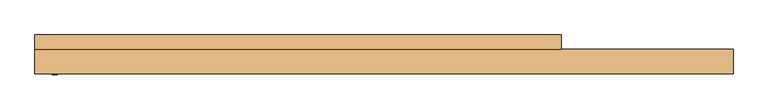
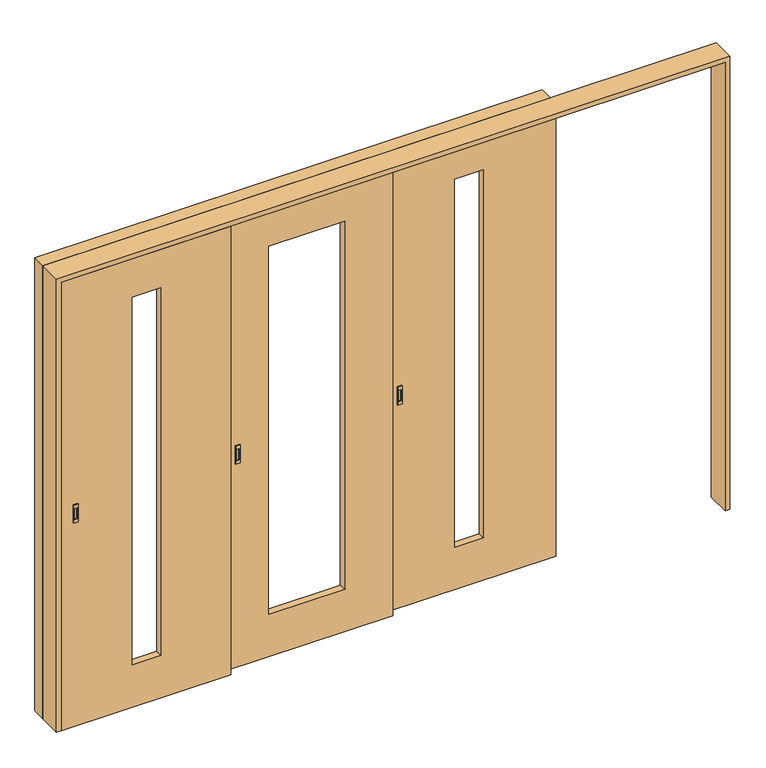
"""IFC4 building model written with IfcOpenShell, lengths in millimetres: door geometry, 木製_片引き3枚_フラッシュ2 : WD-9 w2100h2000."""

from ifc_helpers import new_model, si_unit, frame, origin, place, context, project, spatial, polyline, outline, extrude, faceted_brep, source, transform, mapped, element, save


def door_d265da5f(model_context):
    return source(origin(), model_context, "Body", "SolidModel", [
        faceted_brep([(414.464496, 22.5, 910.0), (394.464496, 22.5, 910.0), (394.464496, 22.5, 990.0), (414.464496, 22.5, 990.0), (399.464496, 22.5, 975.0), (399.464496, 22.5, 925.0), (409.464496, 22.5, 925.0), (409.464496, 22.5, 975.0), (414.464496, -17.5, 910.0), (414.464496, -17.5, 990.0), (394.464496, -17.5, 990.0), (394.464496, -17.5, 910.0), (399.464496, -17.5, 925.0), (399.464496, -17.5, 975.0), (409.464496, -17.5, 975.0), (409.464496, -17.5, 925.0), (399.464496, 17.5, 975.0), (409.464496, 17.5, 975.0), (409.464496, 17.5, 925.0), (399.464496, 17.5, 925.0), (409.464496, -12.5, 925.0), (409.464496, -12.5, 975.0), (399.464496, -12.5, 975.0), (399.464496, -12.5, 925.0)], [[[0, 1, 2, 3], [4, 5, 6, 7]], [[8, 9, 10, 11], [12, 13, 14, 15]], [[3, 9, 8, 0]], [[2, 10, 9, 3]], [[1, 11, 10, 2]], [[0, 8, 11, 1]], [[16, 17, 18, 19]], [[16, 4, 7, 17]], [[17, 7, 6, 18]], [[18, 6, 5, 19]], [[19, 5, 4, 16]], [[20, 21, 22, 23]], [[23, 12, 15, 20]], [[22, 13, 12, 23]], [[21, 14, 13, 22]], [[20, 15, 14, 21]]]),
        faceted_brep([(-285.535504, -7.5, 910.0), (-305.535504, -7.5, 910.0), (-305.535504, -7.5, 990.0), (-285.535504, -7.5, 990.0), (-300.535504, -7.5, 975.0), (-300.535504, -7.5, 925.0), (-290.535504, -7.5, 925.0), (-290.535504, -7.5, 975.0), (-285.535504, -47.5, 910.0), (-285.535504, -47.5, 990.0), (-305.535504, -47.5, 990.0), (-305.535504, -47.5, 910.0), (-300.535504, -47.5, 925.0), (-300.535504, -47.5, 975.0), (-290.535504, -47.5, 975.0), (-290.535504, -47.5, 925.0), (-300.535504, -12.5, 975.0), (-290.535504, -12.5, 975.0), (-290.535504, -12.5, 925.0), (-300.535504, -12.5, 925.0), (-290.535504, -42.5, 925.0), (-290.535504, -42.5, 975.0), (-300.535504, -42.5, 975.0), (-300.535504, -42.5, 925.0)], [[[0, 1, 2, 3], [4, 5, 6, 7]], [[8, 9, 10, 11], [12, 13, 14, 15]], [[3, 9, 8, 0]], [[2, 10, 9, 3]], [[1, 11, 10, 2]], [[0, 8, 11, 1]], [[16, 17, 18, 19]], [[16, 4, 7, 17]], [[17, 7, 6, 18]], [[18, 6, 5, 19]], [[19, 5, 4, 16]], [[20, 21, 22, 23]], [[23, 12, 15, 20]], [[22, 13, 12, 23]], [[21, 14, 13, 22]], [[20, 15, 14, 21]]]),
        faceted_brep([(-985.535504, -37.5, 910.0), (-1005.535504, -37.5, 910.0), (-1005.535504, -37.5, 990.0), (-985.535504, -37.5, 990.0), (-1000.535504, -37.5, 975.0), (-1000.535504, -37.5, 925.0), (-990.535504, -37.5, 925.0), (-990.535504, -37.5, 975.0), (-985.535504, -77.5, 910.0), (-985.535504, -77.5, 990.0), (-1005.535504, -77.5, 990.0), (-1005.535504, -77.5, 910.0), (-1000.535504, -77.5, 925.0), (-1000.535504, -77.5, 975.0), (-990.535504, -77.5, 975.0), (-990.535504, -77.5, 925.0), (-1000.535504, -42.5, 975.0), (-990.535504, -42.5, 975.0), (-990.535504, -42.5, 925.0), (-1000.535504, -42.5, 925.0), (-990.535504, -72.5, 925.0), (-990.535504, -72.5, 975.0), (-1000.535504, -72.5, 975.0), (-1000.535504, -72.5, 925.0)], [[[0, 1, 2, 3], [4, 5, 6, 7]], [[8, 9, 10, 11], [12, 13, 14, 15]], [[3, 9, 8, 0]], [[2, 10, 9, 3]], [[1, 11, 10, 2]], [[0, 8, 11, 1]], [[16, 17, 18, 19]], [[16, 4, 7, 17]], [[17, 7, 6, 18]], [[18, 6, 5, 19]], [[19, 5, 4, 16]], [[20, 21, 22, 23]], [[23, 12, 15, 20]], [[22, 13, 12, 23]], [[21, 14, 13, 22]], [[20, 15, 14, 21]]]),
        extrude(outline(polyline([(2000.0, 1064.464496), (2000.0, 329.464496), (0.0, 329.464496), (0.0, 1064.464496), (2000.0, 1064.464496)]), holes=[polyline([(1829.0931833, 759.1056252), (189.0931833, 759.1056252), (189.0931833, 639.1056252), (1829.0931833, 639.1056252), (1829.0931833, 759.1056252)])]), frame((0.0, -12.5, 0.0), z_axis=(0.0, 1.0, 0.0), x_axis=(0.0, 0.0, 1.0)), (0.0, 0.0, 1.0), 30.0),
        extrude(outline(polyline([(2000.0, 359.464496), (2000.0, -370.535504), (0.0, -370.535504), (0.0, 359.464496), (2000.0, 359.464496)]), holes=[polyline([(1829.0931833, 156.6056252), (189.0931833, 156.6056252), (189.0931833, -163.3943748), (1829.0931833, -163.3943748), (1829.0931833, 156.6056252)])]), frame((0.0, -42.5, 0.0), z_axis=(0.0, 1.0, 0.0), x_axis=(0.0, 0.0, 1.0)), (0.0, 0.0, 1.0), 30.0),
        extrude(outline(polyline([(2020.0, 1064.464496), (2020.0, -1075.535504), (0.0, -1075.535504), (0.0, -1055.535504), (2000.0, -1055.535504), (2000.0, 1044.464496), (0.0, 1044.464496), (0.0, 1064.464496), (2020.0, 1064.464496)])), frame((0.0, 27.5, 0.0), z_axis=(0.0, 1.0, 0.0), x_axis=(0.0, 0.0, 1.0)), (0.0, 0.0, 1.0), 57.5),
        extrude(outline(polyline([(2020.0, 1764.464496), (2020.0, -1075.535504), (0.0, -1075.535504), (0.0, -1055.535504), (2000.0, -1055.535504), (2000.0, 1744.464496), (0.0, 1744.464496), (0.0, 1764.464496), (2020.0, 1764.464496)])), frame((0.0, -72.5, 0.0), z_axis=(0.0, 1.0, 0.0), x_axis=(0.0, 0.0, 1.0)), (0.0, 0.0, 1.0), 100.0),
        extrude(outline(polyline([(2000.0, -340.535504), (2000.0, -1055.535504), (0.0, -1055.535504), (0.0, -340.535504), (2000.0, -340.535504)]), holes=[polyline([(1829.0931833, -635.8943748), (189.0931833, -635.8943748), (189.0931833, -755.8943748), (1829.0931833, -755.8943748), (1829.0931833, -635.8943748)])]), frame((0.0, -72.5, 0.0), z_axis=(0.0, 1.0, 0.0), x_axis=(0.0, 0.0, 1.0)), (0.0, 0.0, 1.0), 30.0),
    ])


if __name__ == "__main__":
    model = new_model("IFC4")
    model_context = context("Model", 3, world=origin())
    ifc_project = project(units=[si_unit("LENGTHUNIT", "METRE", prefix="MILLI")], contexts=[model_context])
    site = spatial("IfcSite", under=ifc_project)
    building = spatial("IfcBuilding", under=site)
    placement = place(None, origin())
    door_shape = door_d265da5f(model_context)
    element("IfcDoor", 1, ObjectType="木製_片引き3枚_フラッシュ2 : WD-9 w2100h2000", at=placement, inside=building, context=model_context, shape_type="MappedRepresentation", body=[
        mapped(door_shape, transform((0.0, 0.0, 0.0), x_axis=(1.0, 0.0, 0.0), y_axis=(0.0, 1.0, 0.0), z_axis=(0.0, 0.0, 1.0))),
    ])
    save(model, "model.ifc")
